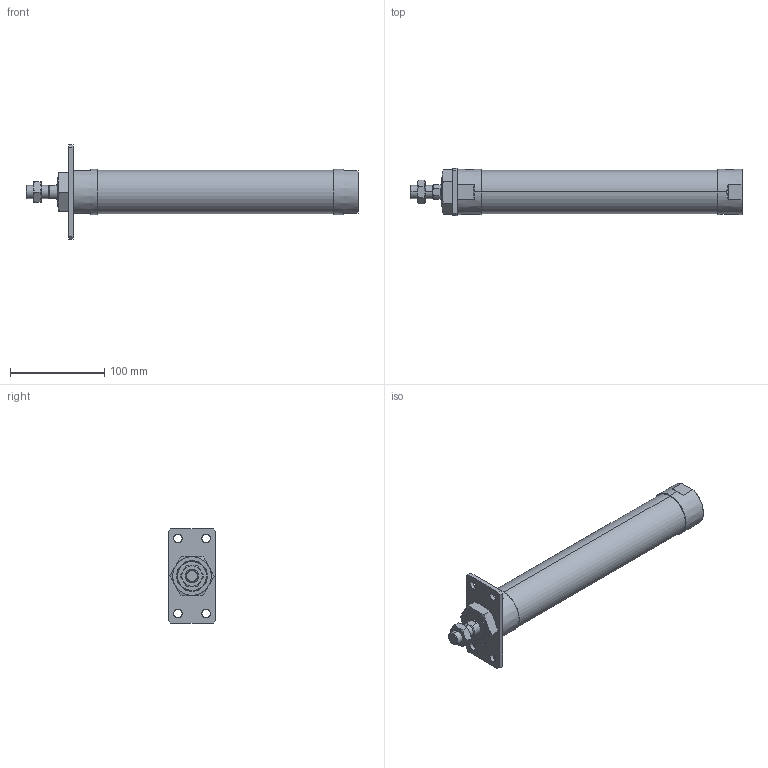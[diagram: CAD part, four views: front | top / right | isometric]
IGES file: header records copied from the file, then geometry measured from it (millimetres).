
Start section: SolidWorks IGES file using analytic representation for surfaces
Global section: file name: C:\Users\Toshiba\Desktop\JGND2-40-200-A.IGS; native system: SolidWorks 2014; preprocessor: SolidWorks 2014; author: Toshiba; date: 160804.111339; units: millimetre
Bounding box: 353 x 50 x 100 mm (x, y, z)
Surface area: 67796.6 mm2 (no closed solid volume)
Topology: 0 solids, 0 shells, 109 faces, 2174 edges, 2170 vertices
Faces by surface type: bspline 66, revolution 43
